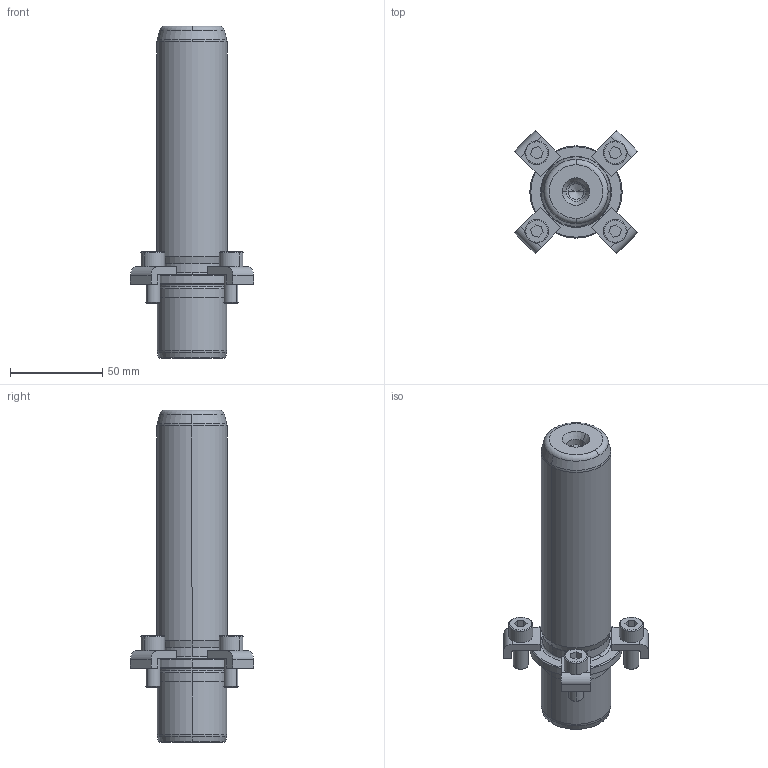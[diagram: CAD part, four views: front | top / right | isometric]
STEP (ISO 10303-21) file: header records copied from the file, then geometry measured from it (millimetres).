
FILE_DESCRIPTION((''),'2;1');
FILE_NAME('P21_038_140.stp','2008-12-23T10:54:21',(''),(''),'Mechanical Desktop 2009','Mechanical Desktop 2009',', , ');
FILE_SCHEMA(('CONFIG_CONTROL_DESIGN'));
Length unit declared in the file: millimetre
Products named in the file (2): Product; blmdl2
Assembly tree (1 placements, depth 2):
  Product
    blmdl2
Bounding box: 66.82 x 66.82 x 180 mm (x, y, z)
Volume: 215071.2 mm3; surface area: 35825.1 mm2
Topology: 9 solids, 9 shells, 195 faces, 477 edges, 309 vertices
Faces by surface type: plane 77, cylinder 52, cone 34, torus 16, bspline 16
Entity records: 6547 total; most frequent: CARTESIAN_POINT 1683, DIRECTION 1078, ORIENTED_EDGE 946, EDGE_CURVE 473, AXIS2_PLACEMENT_3D 424, VERTEX_POINT 309, CIRCLE 243, VECTOR 230
